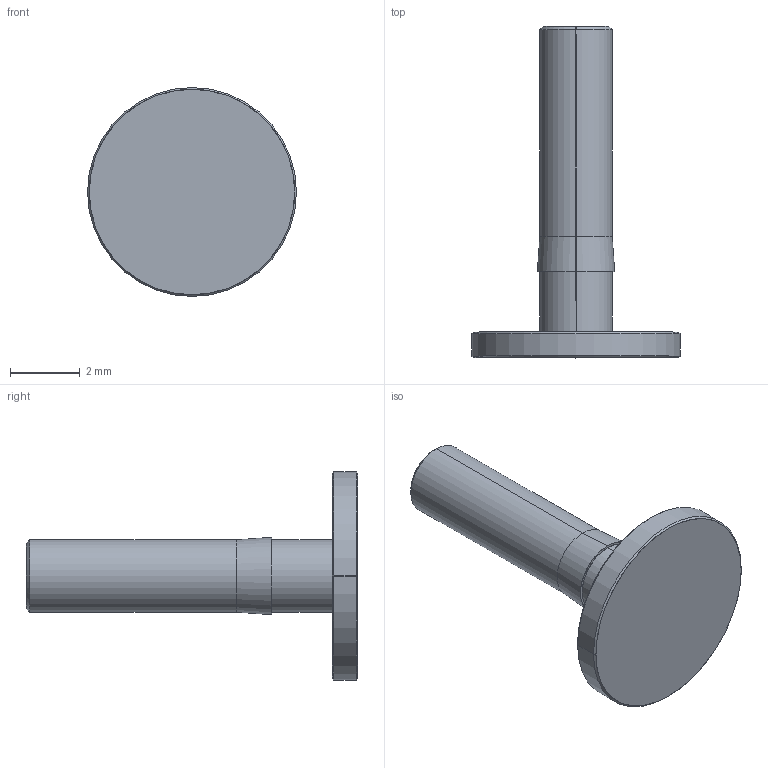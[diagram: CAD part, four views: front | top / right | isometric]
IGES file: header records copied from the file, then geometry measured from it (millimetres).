
Start section: SolidWorks IGES file using analytic representation for surfaces
Global section: file name: F:\OneDrive\Desktop\Coda\20.7\Contact Lands RTP Completed\IPP2-6 RTP\IPP2-6.IGS; native system: SolidWorks 2021; preprocessor: SolidWorks 2021; author: Georg; date: 210720.114715; units: millimetre
Bounding box: 6 x 9.53 x 6 mm (x, y, z)
Surface area: 139 mm2 (no closed solid volume)
Topology: 0 solids, 0 shells, 24 faces, 296 edges, 294 vertices
Faces by surface type: revolution 20, bspline 4
